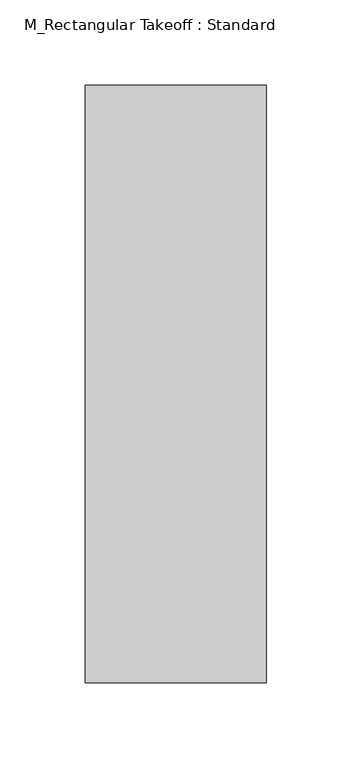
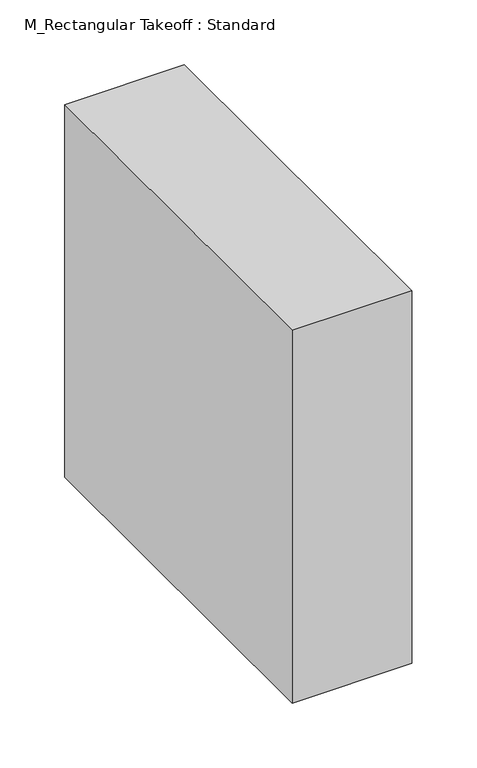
"""IFC4 building model written with IfcOpenShell, lengths in millimetres: duct fitting geometry, M_Rectangular Takeoff : Standard."""

import ifcopenshell
import ifcopenshell.guid

model = None  # the IFC model being written
_history = None  # IfcOwnerHistory: only IFC2X3 demands one
_inside = {}  # id of a spatial element -> (the spatial element, [elements in it])
_under = {}  # id of a project, library or spatial element -> (it, [spatial elements below it])
_declared = {}  # id of a project -> (the project, [libraries it declares])
_typed = {}  # id of a type object -> (the type object, [elements of that type])
_made_of = {}  # id of a material, layer set ... -> (it, [elements and type objects made of it])


def new_model(schema):
    """Start an empty IFC model of exactly this schema.

    Asked for "IFC4X3", IfcOpenShell would pick the latest addendum, in which some entities
    have other attributes; the version numbers below select the first issue.
    IFC2X3 requires an IfcOwnerHistory on every rooted entity: one is made here for all.
    """
    global model, _history
    if schema == "IFC4X3":
        model = ifcopenshell.file(schema_version=(4, 3, 0, 0))
    else:
        model = ifcopenshell.file(schema=schema)
    _inside.clear()
    _under.clear()
    _declared.clear()
    _typed.clear()
    _made_of.clear()
    _history = None
    if model.schema == "IFC2X3":
        org = make("IfcOrganization", Name="unknown")
        user = make(
            "IfcPersonAndOrganization",
            ThePerson=make("IfcPerson", FamilyName="unknown"),
            TheOrganization=org,
        )
        app = make(
            "IfcApplication",
            ApplicationDeveloper=org,
            Version="unknown",
            ApplicationFullName="unknown",
            ApplicationIdentifier="unknown",
        )
        _history = make(
            "IfcOwnerHistory",
            OwningUser=user,
            OwningApplication=app,
            ChangeAction="ADDED",
            CreationDate=0,
        )
    return model


def make(cls, **values):
    """One entity of the class cls with the attributes given. An attribute that is None is left unset."""
    return model.create_entity(
        cls, **{name: value for name, value in values.items() if value is not None}
    )


def rooted(cls, **values):
    """An entity with a GlobalId (a new one), such as an element, a storey or a relation."""
    return make(cls, GlobalId=ifcopenshell.guid.new(), OwnerHistory=_history, **values)


def si_unit(unit_type, name, prefix=None):
    """IfcSIUnit, for example si_unit("LENGTHUNIT", "METRE", prefix="MILLI")."""
    return make("IfcSIUnit", UnitType=unit_type, Prefix=prefix, Name=name)


def assignment(units):
    """IfcUnitAssignment: the units of a project."""
    return None if units is None else make("IfcUnitAssignment", Units=units)


def point(xyz):
    """IfcCartesianPoint."""
    return None if xyz is None else make("IfcCartesianPoint", Coordinates=xyz)


def direction(xyz):
    """IfcDirection."""
    return None if xyz is None else make("IfcDirection", DirectionRatios=xyz)


def frame(location, z_axis=None, x_axis=None):
    """IfcAxis2Placement3D, a coordinate frame: its origin and axes. An axis left out is left unset."""
    return make(
        "IfcAxis2Placement3D",
        Location=point(location),
        Axis=direction(z_axis),
        RefDirection=direction(x_axis),
    )


def origin():
    """The frame at (0, 0, 0) with its axes left unset."""
    return frame((0.0, 0.0, 0.0))


def place(relative_to, where):
    """IfcLocalPlacement: puts the frame where relative to a parent placement (None: the world)."""
    return make(
        "IfcLocalPlacement", PlacementRelTo=relative_to, RelativePlacement=where
    )


def context(
    kind, dimensions, precision=None, world=None, true_north=None, identifier=None
):
    """IfcGeometricRepresentationContext, for example the 3D "Model" context."""
    return make(
        "IfcGeometricRepresentationContext",
        ContextIdentifier=identifier,
        ContextType=kind,
        CoordinateSpaceDimension=dimensions,
        Precision=precision,
        WorldCoordinateSystem=world,
        TrueNorth=true_north,
    )


def project(units=None, contexts=None):
    """IfcProject with its units and contexts."""
    return rooted(
        "IfcProject",
        Name="project",
        RepresentationContexts=contexts,
        UnitsInContext=assignment(units),
    )


def spatial(cls, under=None, at=None, **own):
    """A site, building, storey or space (cls), placed at a placement, below another one or the project."""
    s = rooted(cls, ObjectPlacement=at, **own)
    if under is not None:
        _under.setdefault(under.id(), (under, []))[1].append(s)
    return s


def polyline(points):
    """IfcPolyline through the points."""
    return make("IfcPolyline", Points=[point(p) for p in points])


def outline(outer, holes=None, kind="AREA"):
    """IfcArbitraryClosedProfileDef: a profile drawn as a closed curve; with holes, ...WithVoids."""
    if holes is None:
        return make("IfcArbitraryClosedProfileDef", ProfileType=kind, OuterCurve=outer)
    return make(
        "IfcArbitraryProfileDefWithVoids",
        ProfileType=kind,
        OuterCurve=outer,
        InnerCurves=holes,
    )


def extrude(swept, where, along, depth):
    """IfcExtrudedAreaSolid: the profile swept, set in the frame where, extruded along a direction by depth."""
    return make(
        "IfcExtrudedAreaSolid",
        SweptArea=swept,
        Position=where,
        ExtrudedDirection=direction(along),
        Depth=depth,
    )


def shape(context_of_items, identifier, shape_type, items):
    """IfcShapeRepresentation: the items that make up one representation, for example the "Body"."""
    return make(
        "IfcShapeRepresentation",
        ContextOfItems=context_of_items,
        RepresentationIdentifier=identifier,
        RepresentationType=shape_type,
        Items=items,
    )


def source(mapping_origin, context_of_items, identifier, shape_type, items):
    """IfcRepresentationMap: a shape defined once, which mapped items show again and again."""
    return make(
        "IfcRepresentationMap",
        MappingOrigin=mapping_origin,
        MappedRepresentation=shape(context_of_items, identifier, shape_type, items),
    )


def transform(
    local_origin,
    x_axis=None,
    y_axis=None,
    z_axis=None,
    scale=None,
    scale2=None,
    scale3=None,
    uniform=True,
):
    """IfcCartesianTransformationOperator3D, or its non-uniform kind. x_axis, y_axis, z_axis: its Axis1, 2, 3."""
    if uniform:
        return make(
            "IfcCartesianTransformationOperator3D",
            Axis1=direction(x_axis),
            Axis2=direction(y_axis),
            LocalOrigin=point(local_origin),
            Scale=scale,
            Axis3=direction(z_axis),
        )
    return make(
        "IfcCartesianTransformationOperator3DnonUniform",
        Axis1=direction(x_axis),
        Axis2=direction(y_axis),
        LocalOrigin=point(local_origin),
        Scale=scale,
        Axis3=direction(z_axis),
        Scale2=scale2,
        Scale3=scale3,
    )


def mapped(mapping_source, mapping_target):
    """IfcMappedItem: shows the shape of a source again, moved by a transform."""
    return make(
        "IfcMappedItem", MappingSource=mapping_source, MappingTarget=mapping_target
    )


def made_of(thing, what):
    """Note that an element or type object is made of a material, layer set ...; save() writes the relation."""
    if what is not None:
        _made_of.setdefault(what.id(), (what, []))[1].append(thing)
    return thing


def element(
    cls,
    number,
    at=None,
    inside=None,
    cuts=None,
    type_object=None,
    material=None,
    context=None,
    identifier="Body",
    shape_type=None,
    held_by="IfcProductDefinitionShape",
    body=None,
    shapes=None,
    **own,
):
    """One element of the class cls, such as IfcWall. Its Tag is "e" and its number.

    at: its placement. inside: the storey or other place that contains it. cuts: it is an
    opening in that element (IfcRelVoidsElement). A single representation is given by context,
    identifier, shape_type and body (its items); several are given by shapes. held_by: the class
    of the entity that holds the representations. save() writes the other relations.
    """
    e = rooted(cls, Tag="e%d" % number, ObjectPlacement=at, **own)
    if body is not None:
        shapes = [shape(context, identifier, shape_type, body)]
    if shapes is not None:
        e.Representation = make(held_by, Representations=shapes)
    if inside is not None:
        _inside.setdefault(inside.id(), (inside, []))[1].append(e)
    if cuts is not None:
        rooted(
            "IfcRelVoidsElement", RelatingBuildingElement=cuts, RelatedOpeningElement=e
        )
    if type_object is not None:
        _typed.setdefault(type_object.id(), (type_object, []))[1].append(e)
    return made_of(e, material)


def aggregate(whole, parts):
    """IfcRelAggregates: a whole, such as a stair, and the parts it consists of."""
    return rooted("IfcRelAggregates", RelatingObject=whole, RelatedObjects=parts)


def save(model, path):
    """Write the relations noted so far, then the file.

    IfcRelAggregates (storeys below a building ...), IfcRelContainedInSpatialStructure (elements
    in a storey), IfcRelDefinesByType, IfcRelAssociatesMaterial and IfcRelDeclares: one each for
    every whole, place, type object, material and project.
    """
    for whole, parts in _under.values():
        aggregate(whole, parts)
    for where, things in _inside.values():
        rooted(
            "IfcRelContainedInSpatialStructure",
            RelatedElements=things,
            RelatingStructure=where,
        )
    for kind, things in _typed.values():
        rooted("IfcRelDefinesByType", RelatedObjects=things, RelatingType=kind)
    for what, things in _made_of.values():
        rooted("IfcRelAssociatesMaterial", RelatedObjects=things, RelatingMaterial=what)
    for by, libraries in _declared.values():
        rooted("IfcRelDeclares", RelatingContext=by, RelatedDefinitions=libraries)
    model.write(path)


def m_rectangular_takeoff_standard_466407bc(model_context):
    return source(origin(), model_context, "Body", "SweptSolid", [
        extrude(outline(polyline([(-6.096, -175.0), (-6.096, 175.0), (100.0, 175.0), (100.0, -175.0), (-6.096, -175.0)])), frame((0.0, 0.0, -175.0), z_axis=(0.0, 0.0, 1.0), x_axis=(1.0, 0.0, 0.0)), (0.0, 0.0, 1.0), 350.0),
        extrude(outline(polyline([(-6.096, -175.0), (-6.096, 175.0), (100.0, 175.0), (100.0, -175.0), (-6.096, -175.0)])), frame((0.0, 0.0, -175.0), z_axis=(0.0, 0.0, 1.0), x_axis=(1.0, 0.0, 0.0)), (0.0, 0.0, 1.0), 350.0),
        extrude(outline(polyline([(-6.096, -175.0), (-6.096, 175.0), (100.0, 175.0), (100.0, -175.0), (-6.096, -175.0)])), frame((0.0, 0.0, -175.0), z_axis=(0.0, 0.0, 1.0), x_axis=(1.0, 0.0, 0.0)), (0.0, 0.0, 1.0), 350.0),
    ])


if __name__ == "__main__":
    model = new_model("IFC4")
    model_context = context("Model", 3, world=origin())
    ifc_project = project(units=[si_unit("LENGTHUNIT", "METRE", prefix="MILLI")], contexts=[model_context])
    site = spatial("IfcSite", under=ifc_project)
    building = spatial("IfcBuilding", under=site)
    placement = place(None, origin())
    m_rectangular_takeoff_standard_shape = m_rectangular_takeoff_standard_466407bc(model_context)
    element("IfcDuctFitting", 1, ObjectType="M_Rectangular Takeoff : Standard", at=placement, inside=building, context=model_context, shape_type="MappedRepresentation", body=[
        mapped(m_rectangular_takeoff_standard_shape, transform((0.0, 0.0, 0.0), x_axis=(1.0, 0.0, 0.0), y_axis=(0.0, 1.0, 0.0), z_axis=(0.0, 0.0, 1.0))),
    ])
    save(model, "model.ifc")
